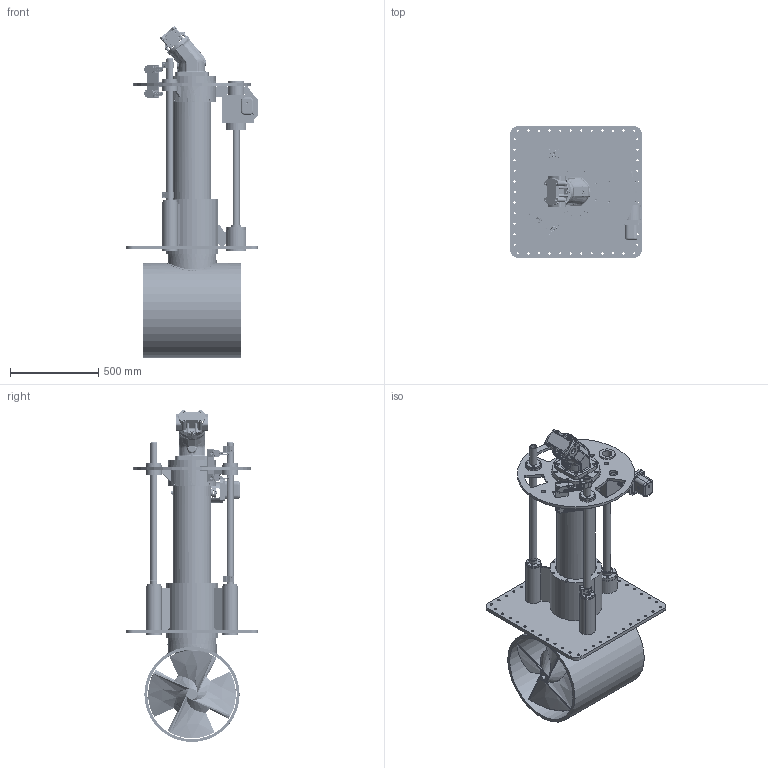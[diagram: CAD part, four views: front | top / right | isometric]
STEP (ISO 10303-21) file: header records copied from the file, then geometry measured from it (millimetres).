
FILE_DESCRIPTION(/* description */ (''),/* implementation_level */ '2;1');
FILE_NAME(/* name */ 'Q:\THRUSTERS\THRUSTER SALES & SUPPORT DOCS\THRUSTER Sales\H-V\H-0500-V\H-0500-V-RETRACTED.stp',/* time_stamp */ '2020-03-05T15:51:08+00:00',/* author */ ('charlotte.richardson'),/* organization */ (''),/* preprocessor_version */ 'ST-DEVELOPER v17',/* originating_system */ 'Autodesk Inventor 2019',/* authorisation */ '');
FILE_SCHEMA (('AUTOMOTIVE_DESIGN { 1 0 10303 214 3 1 1 }'));
Length unit declared in the file: millimetre
Products named in the file (1): H-0500-V_Shrinkwrap_1
Bounding box: 745 x 745 x 1883.57 mm (x, y, z)
Volume: 81022194.6 mm3; surface area: 8579369.9 mm2
Topology: 5 solids, 5 shells, 2786 faces, 7281 edges, 4784 vertices
Faces by surface type: cylinder 1043, plane 900, bspline 425, cone 299, torus 89, sphere 30
Full cylindrical faces by diameter (mm): 3 x6, 4 x8, 5 x1, 5.134 x8, 5.2 x2, 5.5 x32, 6.2 x8, 6.5 x8, 6.8 x4, 7.2 x2, 8 x3, 8.3 x28, 8.5 x69, 9 x8, 9.5 x4, 10 x8, 10.3 x24, 10.5 x47, 11.8 x1, 12 x14, 12.4 x4, 12.5 x50, 13 x18, 14 x24, 14.287 x1, 14.5 x1, 15 x2, 15.25 x4, 16 x3, 16.5 x13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
Entity records: 128364 total; most frequent: CARTESIAN_POINT 57195, ORIENTED_EDGE 14310, DIRECTION 14180, EDGE_CURVE 7155, AXIS2_PLACEMENT_3D 5855, VERTEX_POINT 4782, EDGE_LOOP 3527, CIRCLE 3435
